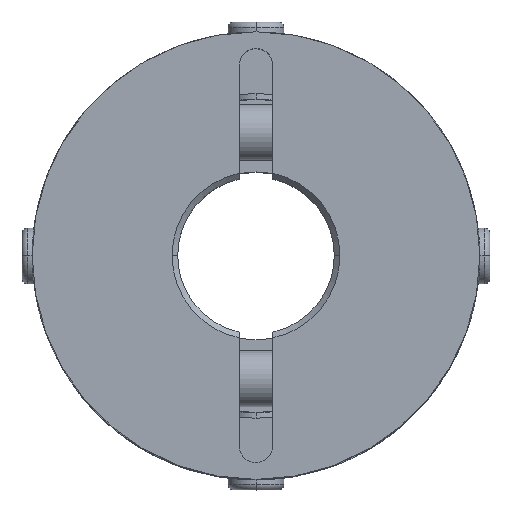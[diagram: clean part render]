
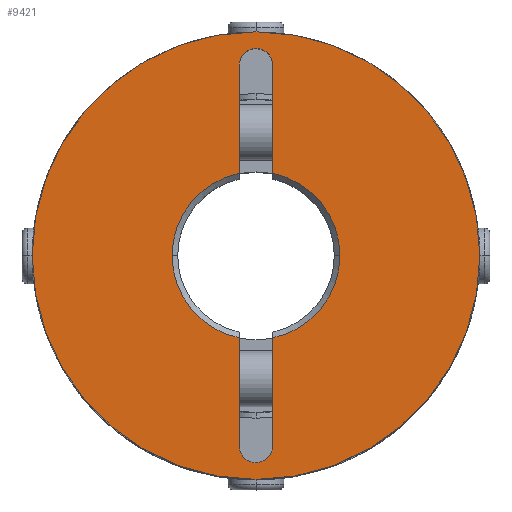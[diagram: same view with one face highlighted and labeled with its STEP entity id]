
A CAD part, top view. The second image highlights one B-rep face of the part: STEP entity #9421.
In plain terms, the highlighted planar face has unit normal (0, 0, 1).
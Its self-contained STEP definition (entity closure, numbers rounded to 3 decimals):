
#993=CARTESIAN_POINT('',(-20.0,0.,20.0));
#994=VERTEX_POINT('',#993);
#1001=CARTESIAN_POINT('',(20.0,0.0,20.0));
#1002=VERTEX_POINT('',#1001);
#1003=CARTESIAN_POINT('',(0.0,0.0,20.0));
#1004=DIRECTION('',(0.0,0.0,-1.0));
#1005=DIRECTION('',(1.0,0.0,0.0));
#1006=AXIS2_PLACEMENT_3D('',#1003,#1004,#1005);
#1007=CIRCLE('',#1006,20.0);
#1008=EDGE_CURVE('',#994,#1002,#1007,.T.);
#1319=CARTESIAN_POINT('',(-1.061,18.061,20.0));
#1320=VERTEX_POINT('',#1319);
#1336=CARTESIAN_POINT('',(1.5,17.,20.0));
#1337=VERTEX_POINT('',#1336);
#1344=CARTESIAN_POINT('',(0.,17.,20.0));
#1345=DIRECTION('',(0.0,0.0,1.));
#1346=DIRECTION('',(0.707,0.707,0.0));
#1347=AXIS2_PLACEMENT_3D('',#1344,#1345,#1346);
#1348=CIRCLE('',#1347,1.5);
#1349=EDGE_CURVE('',#1337,#1320,#1348,.T.);
#1361=CARTESIAN_POINT('',(1.061,-18.061,20.0));
#1362=VERTEX_POINT('',#1361);
#1378=CARTESIAN_POINT('',(-1.5,-17.,20.0));
#1379=VERTEX_POINT('',#1378);
#1386=CARTESIAN_POINT('',(0.0,-17.,20.0));
#1387=DIRECTION('',(0.0,0.0,1.0));
#1388=DIRECTION('',(-0.707,-0.707,0.0));
#1389=AXIS2_PLACEMENT_3D('',#1386,#1387,#1388);
#1390=CIRCLE('',#1389,1.5);
#1391=EDGE_CURVE('',#1379,#1362,#1390,.T.);
#1401=CARTESIAN_POINT('',(-7.5,0.,20.0));
#1402=VERTEX_POINT('',#1401);
#1409=CARTESIAN_POINT('',(-1.5,-7.348,20.0));
#1410=VERTEX_POINT('',#1409);
#1411=CARTESIAN_POINT('',(0.0,0.0,20.0));
#1412=DIRECTION('',(0.0,0.0,1.0));
#1413=DIRECTION('',(-1.0,0.0,0.0));
#1414=AXIS2_PLACEMENT_3D('',#1411,#1412,#1413);
#1415=CIRCLE('',#1414,7.5);
#1416=EDGE_CURVE('',#1402,#1410,#1415,.T.);
#1440=CARTESIAN_POINT('',(7.5,0.,20.0));
#1441=VERTEX_POINT('',#1440);
#1448=CARTESIAN_POINT('',(1.5,7.348,20.0));
#1449=VERTEX_POINT('',#1448);
#1450=CARTESIAN_POINT('',(0.0,0.0,20.0));
#1451=DIRECTION('',(0.0,0.0,1.0));
#1452=DIRECTION('',(1.0,0.0,0.0));
#1453=AXIS2_PLACEMENT_3D('',#1450,#1451,#1452);
#1454=CIRCLE('',#1453,7.5);
#1455=EDGE_CURVE('',#1441,#1449,#1454,.T.);
#9226=CARTESIAN_POINT('',(-1.5,17.,20.0));
#9227=VERTEX_POINT('',#9226);
#9234=CARTESIAN_POINT('',(-1.5,7.348,20.0));
#9235=VERTEX_POINT('',#9234);
#9236=CARTESIAN_POINT('',(-1.5,7.348,20.0));
#9237=DIRECTION('',(0.0,1.0,0.0));
#9238=VECTOR('',#9237,9.652);
#9239=LINE('',#9236,#9238);
#9240=EDGE_CURVE('',#9235,#9227,#9239,.T.);
#9315=CARTESIAN_POINT('',(1.5,17.,20.0));
#9316=DIRECTION('',(0.0,-1.0,0.0));
#9317=VECTOR('',#9316,9.652);
#9318=LINE('',#9315,#9317);
#9319=EDGE_CURVE('',#1337,#1449,#9318,.T.);
#9337=CARTESIAN_POINT('',(1.5,-7.348,20.0));
#9338=VERTEX_POINT('',#9337);
#9352=CARTESIAN_POINT('',(0.0,0.0,20.0));
#9353=DIRECTION('',(0.0,0.0,1.0));
#9354=DIRECTION('',(1.0,0.0,0.0));
#9355=AXIS2_PLACEMENT_3D('',#9352,#9353,#9354);
#9356=CIRCLE('',#9355,7.5);
#9357=EDGE_CURVE('',#9338,#1441,#9356,.T.);
#9362=CARTESIAN_POINT('',(1.818,0.,20.0));
#9363=DIRECTION('',(0.0,0.0,1.0));
#9364=DIRECTION('',(1.0,0.0,0.0));
#9365=AXIS2_PLACEMENT_3D('',#9362,#9363,#9364);
#9366=PLANE('',#9365);
#9367=CARTESIAN_POINT('',(0.0,0.0,20.0));
#9368=DIRECTION('',(0.0,0.0,-1.0));
#9369=DIRECTION('',(1.0,0.0,0.0));
#9370=AXIS2_PLACEMENT_3D('',#9367,#9368,#9369);
#9371=CIRCLE('',#9370,20.0);
#9372=EDGE_CURVE('',#1002,#994,#9371,.T.);
#9373=ORIENTED_EDGE('',*,*,#9372,.F.);
#9374=ORIENTED_EDGE('',*,*,#1008,.F.);
#9375=EDGE_LOOP('',(#9373,#9374));
#9376=FACE_OUTER_BOUND('',#9375,.T.);
#9377=ORIENTED_EDGE('',*,*,#9357,.F.);
#9378=CARTESIAN_POINT('',(1.5,-17.,20.0));
#9379=VERTEX_POINT('',#9378);
#9380=CARTESIAN_POINT('',(1.5,-7.348,20.0));
#9381=DIRECTION('',(0.0,-1.0,0.0));
#9382=VECTOR('',#9381,9.652);
#9383=LINE('',#9380,#9382);
#9384=EDGE_CURVE('',#9338,#9379,#9383,.T.);
#9385=ORIENTED_EDGE('',*,*,#9384,.T.);
#9386=CARTESIAN_POINT('',(0.0,-17.,20.0));
#9387=DIRECTION('',(0.0,0.0,1.0));
#9388=DIRECTION('',(-0.707,-0.707,0.0));
#9389=AXIS2_PLACEMENT_3D('',#9386,#9387,#9388);
#9390=CIRCLE('',#9389,1.5);
#9391=EDGE_CURVE('',#1362,#9379,#9390,.T.);
#9392=ORIENTED_EDGE('',*,*,#9391,.F.);
#9393=ORIENTED_EDGE('',*,*,#1391,.F.);
#9394=CARTESIAN_POINT('',(-1.5,-17.,20.0));
#9395=DIRECTION('',(0.0,1.0,0.0));
#9396=VECTOR('',#9395,9.652);
#9397=LINE('',#9394,#9396);
#9398=EDGE_CURVE('',#1379,#1410,#9397,.T.);
#9399=ORIENTED_EDGE('',*,*,#9398,.T.);
#9400=ORIENTED_EDGE('',*,*,#1416,.F.);
#9401=CARTESIAN_POINT('',(0.0,0.0,20.0));
#9402=DIRECTION('',(0.0,0.0,1.0));
#9403=DIRECTION('',(-1.0,0.0,0.0));
#9404=AXIS2_PLACEMENT_3D('',#9401,#9402,#9403);
#9405=CIRCLE('',#9404,7.5);
#9406=EDGE_CURVE('',#9235,#1402,#9405,.T.);
#9407=ORIENTED_EDGE('',*,*,#9406,.F.);
#9408=ORIENTED_EDGE('',*,*,#9240,.T.);
#9409=CARTESIAN_POINT('',(0.,17.,20.0));
#9410=DIRECTION('',(0.0,0.0,1.));
#9411=DIRECTION('',(0.707,0.707,0.0));
#9412=AXIS2_PLACEMENT_3D('',#9409,#9410,#9411);
#9413=CIRCLE('',#9412,1.5);
#9414=EDGE_CURVE('',#1320,#9227,#9413,.T.);
#9415=ORIENTED_EDGE('',*,*,#9414,.F.);
#9416=ORIENTED_EDGE('',*,*,#1349,.F.);
#9417=ORIENTED_EDGE('',*,*,#9319,.T.);
#9418=ORIENTED_EDGE('',*,*,#1455,.F.);
#9419=EDGE_LOOP('',(#9377,#9385,#9392,#9393,#9399,#9400,#9407,#9408,#9415,#9416,#9417,#9418));
#9420=FACE_BOUND('',#9419,.T.);
#9421=ADVANCED_FACE('',(#9376,#9420),#9366,.T.);
